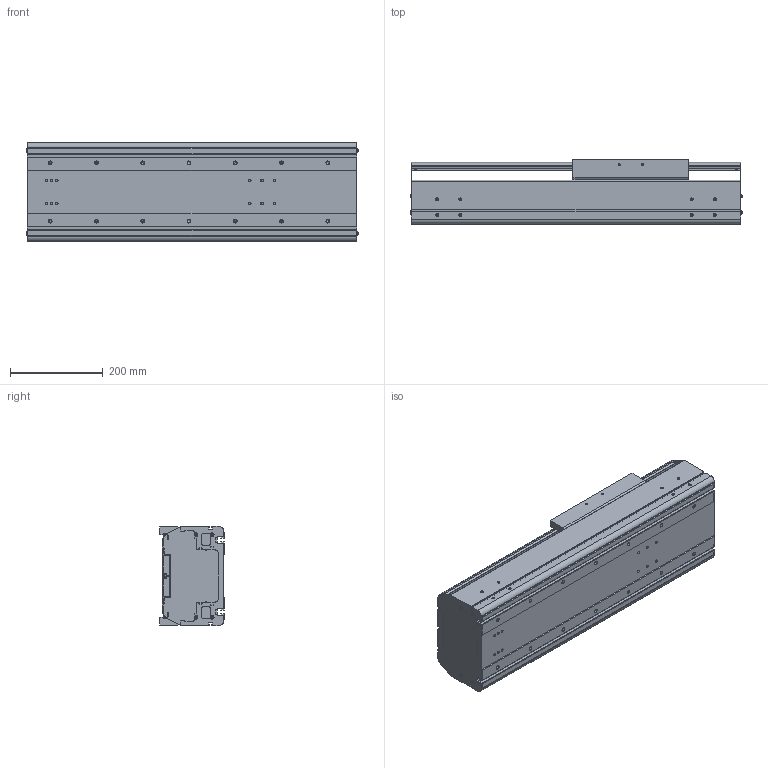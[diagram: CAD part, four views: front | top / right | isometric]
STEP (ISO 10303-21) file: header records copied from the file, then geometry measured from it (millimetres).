
FILE_DESCRIPTION((''),'2;1');
FILE_NAME('BE60G-ST-M_N-30_IGS_PRT','2017-06-18T',(' '),(''),'PRO/ENGINEER BY PARAMETRIC TECHNOLOGY CORPORATION, 2015030','PRO/ENGINEER BY PARAMETRIC TECHNOLOGY CORPORATION, 2015030','');
FILE_SCHEMA(('CONFIG_CONTROL_DESIGN'));
Length unit declared in the file: millimetre
Products named in the file (1): BE60G-ST-M_N-30_IGS_PRT
Bounding box: 717.4 x 140 x 214 mm (x, y, z)
Volume: 6295105.8 mm3; surface area: 1669352.6 mm2
Topology: 2 solids, 104 shells, 1350 faces, 3716 edges, 2432 vertices
Faces by surface type: cylinder 648, plane 574, cone 80, sphere 24, torus 24
Entity records: 44298 total; most frequent: CARTESIAN_POINT 9438, DIRECTION 7406, ORIENTED_EDGE 6880, EDGE_CURVE 3640, AXIS2_PLACEMENT_3D 2717, VERTEX_POINT 2432, VECTOR 1972, LINE 1972
